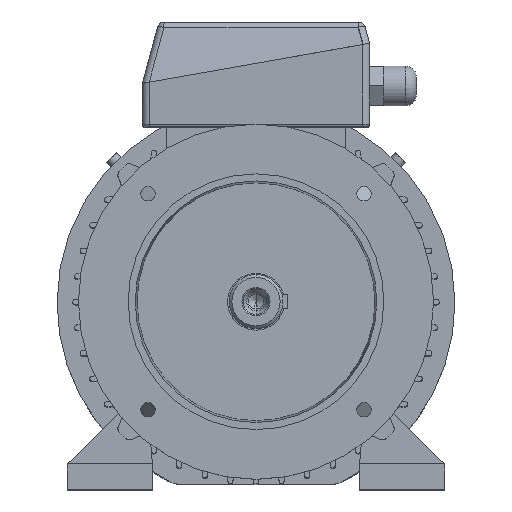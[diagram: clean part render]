
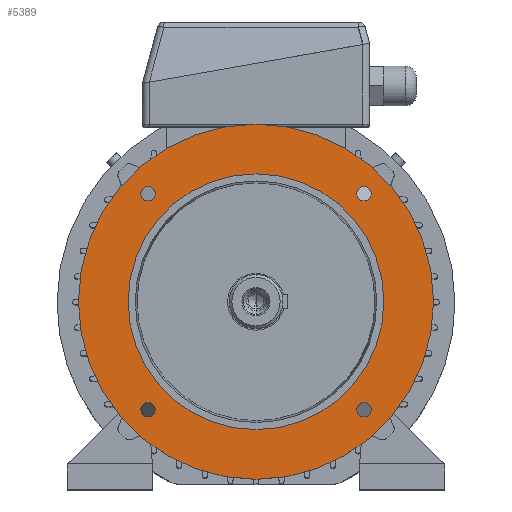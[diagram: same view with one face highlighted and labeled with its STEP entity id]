
A CAD part, top view. The second image highlights one B-rep face of the part: STEP entity #5389.
In plain terms, the highlighted planar face has unit normal (0, 0, 1).
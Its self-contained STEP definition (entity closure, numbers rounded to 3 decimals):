
#16401 = VERTEX_POINT ( 'NONE', #4566 ) ;
#638 = VERTEX_POINT ( 'NONE', #13101 ) ;
#967 = ORIENTED_EDGE ( 'NONE', *, *, #9657, .F. ) ;
#1112 = FACE_BOUND ( 'NONE', #5159, .T. ) ;
#1119 = FACE_BOUND ( 'NONE', #3123, .T. ) ;
#1120 = FACE_BOUND ( 'NONE', #6196, .T. ) ;
#1121 = FACE_OUTER_BOUND ( 'NONE', #4353, .T. ) ;
#1122 = FACE_BOUND ( 'NONE', #2493, .T. ) ;
#1123 = FACE_BOUND ( 'NONE', #14280, .T. ) ;
#1124 = PLANE ( 'NONE',  #1125 ) ;
#1125 = AXIS2_PLACEMENT_3D ( 'NONE', #1126, #1127, #1128 ) ;
#1126 = CARTESIAN_POINT ( 'NONE',  ( 0., 125., 58. ) ) ;
#1127 = DIRECTION ( 'NONE',  ( 0., 0., -1. ) ) ;
#1128 = DIRECTION ( 'NONE',  ( -1., 0., 0. ) ) ;
#1267 = CIRCLE ( 'NONE', #1268, 5.1 ) ;
#1268 = AXIS2_PLACEMENT_3D ( 'NONE', #1269, #1270, #1271 ) ;
#1269 = CARTESIAN_POINT ( 'NONE',  ( -76.014, -76.014, 58. ) ) ;
#1270 = DIRECTION ( 'NONE',  ( 0., 0., 1. ) ) ;
#1271 = DIRECTION ( 'NONE',  ( 1., 0., 0. ) ) ;
#1520 = EDGE_CURVE ( 'NONE', #15222, #2021, #13585, .T. ) ;
#1921 = ORIENTED_EDGE ( 'NONE', *, *, #11674, .F. ) ;
#2021 = VERTEX_POINT ( 'NONE', #13847 ) ;
#2113 = EDGE_CURVE ( 'NONE', #12378, #16355, #13858, .T. ) ;
#2493 = EDGE_LOOP ( 'NONE', ( #1921, #14550 ) ) ;
#2535 = ORIENTED_EDGE ( 'NONE', *, *, #2113, .F. ) ;
#2758 = EDGE_CURVE ( 'NONE', #14528, #13170, #14224, .T. ) ;
#3123 = EDGE_LOOP ( 'NONE', ( #2535, #6425 ) ) ;
#3185 = ORIENTED_EDGE ( 'NONE', *, *, #2758, .T. ) ;
#3383 = ORIENTED_EDGE ( 'NONE', *, *, #11610, .F. ) ;
#3685 = CIRCLE ( 'NONE', #3686, 5.1 ) ;
#3686 = AXIS2_PLACEMENT_3D ( 'NONE', #3687, #3688, #3689 ) ;
#3687 = CARTESIAN_POINT ( 'NONE',  ( -76.014, 76.014, 58. ) ) ;
#3688 = DIRECTION ( 'NONE',  ( 0., 0., 1. ) ) ;
#3689 = DIRECTION ( 'NONE',  ( 1., 0., 0. ) ) ;
#3760 = ORIENTED_EDGE ( 'NONE', *, *, #13525, .T. ) ;
#3945 = CIRCLE ( 'NONE', #3946, 5.1 ) ;
#3946 = AXIS2_PLACEMENT_3D ( 'NONE', #3947, #3948, #3953 ) ;
#3947 = CARTESIAN_POINT ( 'NONE',  ( 76.014, -76.014, 58. ) ) ;
#3948 = DIRECTION ( 'NONE',  ( 0., 0., 1. ) ) ;
#3953 = DIRECTION ( 'NONE',  ( 1., 0., 0. ) ) ;
#3974 = EDGE_CURVE ( 'NONE', #11546, #16401, #14918, .T. ) ;
#4353 = EDGE_LOOP ( 'NONE', ( #3760, #3185 ) ) ;
#4393 = ORIENTED_EDGE ( 'NONE', *, *, #3974, .F. ) ;
#4519 = CARTESIAN_POINT ( 'NONE',  ( 70.914, -76.014, 58. ) ) ;
#4566 = CARTESIAN_POINT ( 'NONE',  ( 70.914, 76.014, 58. ) ) ;
#4614 = EDGE_CURVE ( 'NONE', #12095, #12148, #15206, .T. ) ;
#5027 = ORIENTED_EDGE ( 'NONE', *, *, #4614, .F. ) ;
#5159 = EDGE_LOOP ( 'NONE', ( #4393, #3383 ) ) ;
#5389 = ADVANCED_FACE ( 'NONE', ( #1112, #1119, #1120, #1121, #1122, #1123 ), #1124, .F. ) ;
#5618 = ORIENTED_EDGE ( 'NONE', *, *, #12212, .F. ) ;
#5681 = EDGE_CURVE ( 'NONE', #13898, #638, #1267, .T. ) ;
#5799 = CARTESIAN_POINT ( 'NONE',  ( 81.114, 76.014, 58. ) ) ;
#5928 = CIRCLE ( 'NONE', #5929, 5.1 ) ;
#5929 = AXIS2_PLACEMENT_3D ( 'NONE', #5930, #5931, #5932 ) ;
#5930 = CARTESIAN_POINT ( 'NONE',  ( 76.014, 76.014, 58. ) ) ;
#5931 = DIRECTION ( 'NONE',  ( 0., 0., 1. ) ) ;
#5932 = DIRECTION ( 'NONE',  ( 1., 0., 0. ) ) ;
#6058 = CIRCLE ( 'NONE', #6059, 5.1 ) ;
#6059 = AXIS2_PLACEMENT_3D ( 'NONE', #6060, #6061, #6062 ) ;
#6060 = CARTESIAN_POINT ( 'NONE',  ( -76.014, -76.014, 58. ) ) ;
#6061 = DIRECTION ( 'NONE',  ( 0., 0., 1. ) ) ;
#6062 = DIRECTION ( 'NONE',  ( 1., 0., 0. ) ) ;
#6196 = EDGE_LOOP ( 'NONE', ( #5618, #5027 ) ) ;
#6425 = ORIENTED_EDGE ( 'NONE', *, *, #16182, .F. ) ;
#7063 = CARTESIAN_POINT ( 'NONE',  ( -90., 0., 58. ) ) ;
#7176 = CARTESIAN_POINT ( 'NONE',  ( 90., 0., 58. ) ) ;
#7281 = CIRCLE ( 'NONE', #7282, 90. ) ;
#7282 = AXIS2_PLACEMENT_3D ( 'NONE', #7283, #7284, #7285 ) ;
#7283 = CARTESIAN_POINT ( 'NONE',  ( 0., 0., 58. ) ) ;
#7284 = DIRECTION ( 'NONE',  ( 0., 0., 1. ) ) ;
#7285 = DIRECTION ( 'NONE',  ( 1., 0., 0. ) ) ;
#7629 = CARTESIAN_POINT ( 'NONE',  ( 81.114, -76.014, 58. ) ) ;
#9371 = CARTESIAN_POINT ( 'NONE',  ( 125., 0., 58. ) ) ;
#9524 = CIRCLE ( 'NONE', #9525, 125. ) ;
#9525 = AXIS2_PLACEMENT_3D ( 'NONE', #9526, #9527, #9528 ) ;
#9526 = CARTESIAN_POINT ( 'NONE',  ( 0., 0., 58. ) ) ;
#9527 = DIRECTION ( 'NONE',  ( 0., 0., 1. ) ) ;
#9528 = DIRECTION ( 'NONE',  ( 1., 0., 0. ) ) ;
#9657 = EDGE_CURVE ( 'NONE', #2021, #15222, #3685, .T. ) ;
#9723 = CARTESIAN_POINT ( 'NONE',  ( -81.114, -76.014, 58. ) ) ;
#10066 = CARTESIAN_POINT ( 'NONE',  ( -125., 0., 58. ) ) ;
#10417 = CARTESIAN_POINT ( 'NONE',  ( -70.914, 76.014, 58. ) ) ;
#11546 = VERTEX_POINT ( 'NONE', #5799 ) ;
#11610 = EDGE_CURVE ( 'NONE', #16401, #11546, #5928, .T. ) ;
#11674 = EDGE_CURVE ( 'NONE', #638, #13898, #6058, .T. ) ;
#12095 = VERTEX_POINT ( 'NONE', #7063 ) ;
#12148 = VERTEX_POINT ( 'NONE', #7176 ) ;
#12212 = EDGE_CURVE ( 'NONE', #12148, #12095, #7281, .T. ) ;
#12378 = VERTEX_POINT ( 'NONE', #7629 ) ;
#13101 = CARTESIAN_POINT ( 'NONE',  ( -70.914, -76.014, 58. ) ) ;
#13170 = VERTEX_POINT ( 'NONE', #9371 ) ;
#13507 = ORIENTED_EDGE ( 'NONE', *, *, #1520, .F. ) ;
#13525 = EDGE_CURVE ( 'NONE', #13170, #14528, #9524, .T. ) ;
#13585 = CIRCLE ( 'NONE', #13586, 5.1 ) ;
#13586 = AXIS2_PLACEMENT_3D ( 'NONE', #13587, #13588, #13589 ) ;
#13587 = CARTESIAN_POINT ( 'NONE',  ( -76.014, 76.014, 58. ) ) ;
#13588 = DIRECTION ( 'NONE',  ( 0., 0., 1. ) ) ;
#13589 = DIRECTION ( 'NONE',  ( 1., 0., 0. ) ) ;
#13847 = CARTESIAN_POINT ( 'NONE',  ( -81.114, 76.014, 58. ) ) ;
#13858 = CIRCLE ( 'NONE', #13859, 5.1 ) ;
#13859 = AXIS2_PLACEMENT_3D ( 'NONE', #13860, #13861, #13862 ) ;
#13860 = CARTESIAN_POINT ( 'NONE',  ( 76.014, -76.014, 58. ) ) ;
#13861 = DIRECTION ( 'NONE',  ( 0., 0., 1. ) ) ;
#13862 = DIRECTION ( 'NONE',  ( 1., 0., 0. ) ) ;
#13898 = VERTEX_POINT ( 'NONE', #9723 ) ;
#14224 = CIRCLE ( 'NONE', #14225, 125. ) ;
#14225 = AXIS2_PLACEMENT_3D ( 'NONE', #14226, #14227, #14228 ) ;
#14226 = CARTESIAN_POINT ( 'NONE',  ( 0., 0., 58. ) ) ;
#14227 = DIRECTION ( 'NONE',  ( 0., 0., 1. ) ) ;
#14228 = DIRECTION ( 'NONE',  ( 1., 0., 0. ) ) ;
#14280 = EDGE_LOOP ( 'NONE', ( #13507, #967 ) ) ;
#14528 = VERTEX_POINT ( 'NONE', #10066 ) ;
#14550 = ORIENTED_EDGE ( 'NONE', *, *, #5681, .F. ) ;
#14918 = CIRCLE ( 'NONE', #14919, 5.1 ) ;
#14919 = AXIS2_PLACEMENT_3D ( 'NONE', #14920, #14921, #14926 ) ;
#14920 = CARTESIAN_POINT ( 'NONE',  ( 76.014, 76.014, 58. ) ) ;
#14921 = DIRECTION ( 'NONE',  ( 0., 0., 1. ) ) ;
#14926 = DIRECTION ( 'NONE',  ( 1., 0., 0. ) ) ;
#15206 = CIRCLE ( 'NONE', #15207, 90. ) ;
#15207 = AXIS2_PLACEMENT_3D ( 'NONE', #15208, #15209, #15210 ) ;
#15208 = CARTESIAN_POINT ( 'NONE',  ( 0., 0., 58. ) ) ;
#15209 = DIRECTION ( 'NONE',  ( 0., 0., 1. ) ) ;
#15210 = DIRECTION ( 'NONE',  ( 1., 0., 0. ) ) ;
#15222 = VERTEX_POINT ( 'NONE', #10417 ) ;
#16182 = EDGE_CURVE ( 'NONE', #16355, #12378, #3945, .T. ) ;
#16355 = VERTEX_POINT ( 'NONE', #4519 ) ;
